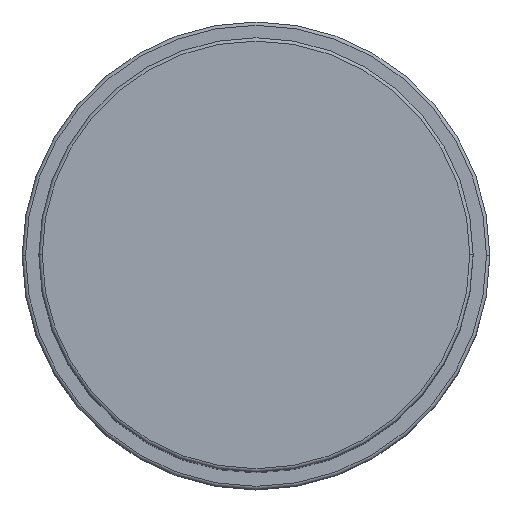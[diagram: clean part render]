
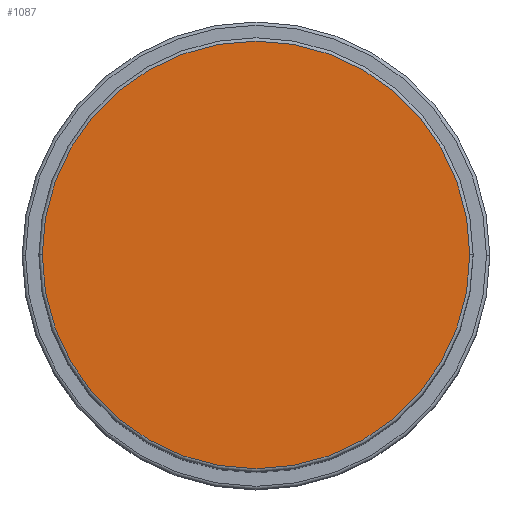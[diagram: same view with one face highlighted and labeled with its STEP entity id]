
A CAD part, top view. The second image highlights one B-rep face of the part: STEP entity #1087.
In plain terms, the highlighted planar face has unit normal (0, 0, 1).
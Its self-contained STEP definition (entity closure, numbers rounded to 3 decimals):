
#152 = AXIS2_PLACEMENT_3D ( 'NONE', #1213, #1461, #709 ) ;
#215 = EDGE_CURVE ( 'NONE', #1597, #530, #324, .T. ) ;
#258 = CIRCLE ( 'NONE', #321, 32. ) ;
#321 = AXIS2_PLACEMENT_3D ( 'NONE', #1578, #1431, #1308 ) ;
#324 = CIRCLE ( 'NONE', #152, 32. ) ;
#521 = CARTESIAN_POINT ( 'NONE',  ( 0., 0., 107. ) ) ;
#530 = VERTEX_POINT ( 'NONE', #894 ) ;
#632 = CARTESIAN_POINT ( 'NONE',  ( 32., 0., 107. ) ) ;
#709 = DIRECTION ( 'NONE',  ( 1., 0., 0. ) ) ;
#725 = FACE_OUTER_BOUND ( 'NONE', #1346, .T. ) ;
#752 = DIRECTION ( 'NONE',  ( 1., 0., 0. ) ) ;
#894 = CARTESIAN_POINT ( 'NONE',  ( -32., 0., 107. ) ) ;
#1087 = ADVANCED_FACE ( 'NONE', ( #725 ), #1654, .T. ) ;
#1207 = EDGE_CURVE ( 'NONE', #530, #1597, #258, .T. ) ;
#1213 = CARTESIAN_POINT ( 'NONE',  ( 0., 0., 107. ) ) ;
#1308 = DIRECTION ( 'NONE',  ( 1., 0., 0. ) ) ;
#1309 = AXIS2_PLACEMENT_3D ( 'NONE', #521, #1395, #752 ) ;
#1346 = EDGE_LOOP ( 'NONE', ( #1510, #1371 ) ) ;
#1371 = ORIENTED_EDGE ( 'NONE', *, *, #1207, .T. ) ;
#1395 = DIRECTION ( 'NONE',  ( 0., 0., 1. ) ) ;
#1431 = DIRECTION ( 'NONE',  ( 0., 0., 1. ) ) ;
#1461 = DIRECTION ( 'NONE',  ( 0., 0., 1. ) ) ;
#1510 = ORIENTED_EDGE ( 'NONE', *, *, #215, .T. ) ;
#1578 = CARTESIAN_POINT ( 'NONE',  ( 0., 0., 107. ) ) ;
#1597 = VERTEX_POINT ( 'NONE', #632 ) ;
#1654 = PLANE ( 'NONE',  #1309 ) ;
